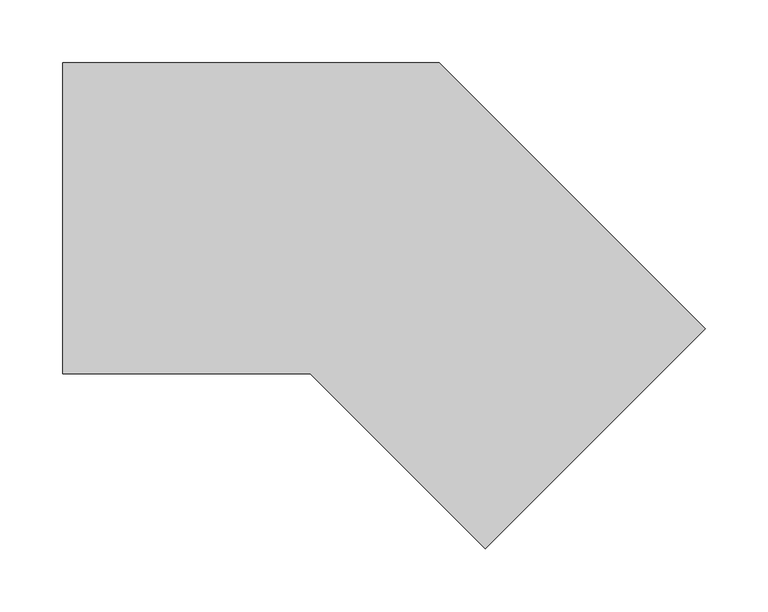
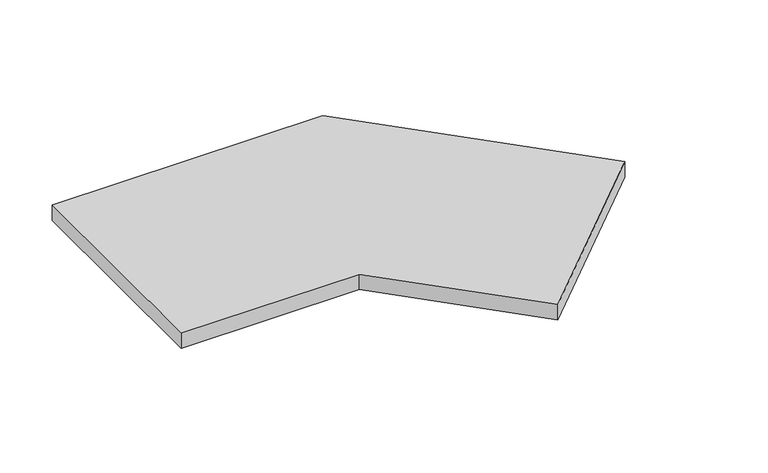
"""IFC4 building model written with IfcOpenShell, lengths in millimetres: proxy geometry, TECHNO_Решетка_KVU : Решетка рулонная алюминиевая/ Белый RAL 9016."""

from ifc_helpers import new_model, si_unit, frame, origin, place, context, project, spatial, polyline, outline, extrude, source, transform, mapped, element, save


def mechanical_equipment_9ba64870(model_context):
    return source(origin(), model_context, "Body", "SweptSolid", [
        extrude(outline(polyline([(263.0602015, -87.9805625), (87.9805625, -263.0602015), (-51.279639, -123.8), (-248.2233047, -123.8), (-248.2233047, 123.8), (51.279639, 123.8), (263.0602015, -87.9805625)])), frame((0.0, 0.0, -18.1), z_axis=(0.0, 0.0, 1.0), x_axis=(1.0, 0.0, 0.0)), (0.0, 0.0, 1.0), 18.1),
    ])


if __name__ == "__main__":
    model = new_model("IFC4")
    model_context = context("Model", 3, world=origin())
    ifc_project = project(units=[si_unit("LENGTHUNIT", "METRE", prefix="MILLI")], contexts=[model_context])
    site = spatial("IfcSite", under=ifc_project)
    building = spatial("IfcBuilding", under=site)
    placement = place(None, origin())
    mechanical_equipment_shape = mechanical_equipment_9ba64870(model_context)
    element("IfcBuildingElementProxy", 1, Name="TECHNO_Решетка_KVU : Решетка рулонная алюминиевая/ Белый RAL 9016", ObjectType="TECHNO_Решетка_KVU : Решетка рулонная алюминиевая/ Белый RAL 9016", at=placement, inside=building, context=model_context, shape_type="MappedRepresentation", body=[
        mapped(mechanical_equipment_shape, transform((0.0, 0.0, 0.0), x_axis=(1.0, 0.0, 0.0), y_axis=(0.0, 1.0, 0.0), z_axis=(0.0, 0.0, 1.0))),
    ])
    save(model, "model.ifc")
